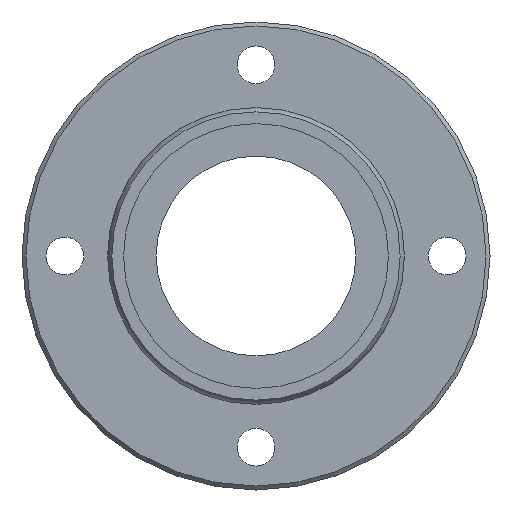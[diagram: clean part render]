
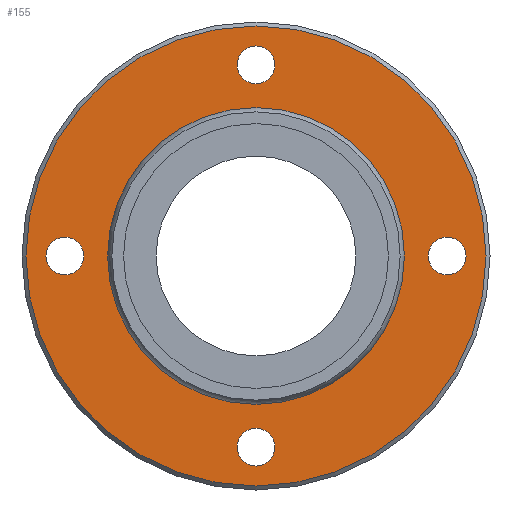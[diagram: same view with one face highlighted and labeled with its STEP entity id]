
A CAD part, left-side view. The second image highlights one B-rep face of the part: STEP entity #155.
In plain terms, the highlighted planar face has unit normal (-1, 0, 0).
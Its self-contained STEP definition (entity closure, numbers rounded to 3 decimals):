
#60=CARTESIAN_POINT('',(15.,0.,40.3));
#61=VERTEX_POINT('',#60);
#62=CARTESIAN_POINT('',(15.,0.0,0.0));
#63=DIRECTION('',(1.0,0.0,0.0));
#64=DIRECTION('',(0.0,0.0,-1.0));
#65=AXIS2_PLACEMENT_3D('',#62,#63,#64);
#66=CIRCLE('',#65,40.3);
#67=EDGE_CURVE('',#61,#61,#66,.T.);
#92=CARTESIAN_POINT('',(15.,0.0,33.357));
#93=DIRECTION('',(-1.0,0.0,0.0));
#94=DIRECTION('',(0.0,0.0,1.0));
#95=AXIS2_PLACEMENT_3D('',#92,#93,#94);
#96=PLANE('',#95);
#97=ORIENTED_EDGE('',*,*,#67,.F.);
#98=EDGE_LOOP('',(#97));
#99=FACE_OUTER_BOUND('',#98,.T.);
#100=CARTESIAN_POINT('',(15.,0.0,25.714));
#101=VERTEX_POINT('',#100);
#102=CARTESIAN_POINT('',(15.0,0.0,0.0));
#103=DIRECTION('',(-1.0,0.0,0.0));
#104=DIRECTION('',(0.0,0.0,1.0));
#105=AXIS2_PLACEMENT_3D('',#102,#103,#104);
#106=CIRCLE('',#105,25.714);
#107=EDGE_CURVE('',#101,#101,#106,.T.);
#108=ORIENTED_EDGE('',*,*,#107,.F.);
#109=EDGE_LOOP('',(#108));
#110=FACE_BOUND('',#109,.T.);
#111=CARTESIAN_POINT('',(15.0,30.2,0.));
#112=VERTEX_POINT('',#111);
#113=CARTESIAN_POINT('',(15.0,33.5,0.));
#114=DIRECTION('',(1.0,0.0,0.0));
#115=DIRECTION('',(0.0,1.0,0.0));
#116=AXIS2_PLACEMENT_3D('',#113,#114,#115);
#117=CIRCLE('',#116,3.3);
#118=EDGE_CURVE('',#112,#112,#117,.T.);
#119=ORIENTED_EDGE('',*,*,#118,.T.);
#120=EDGE_LOOP('',(#119));
#121=FACE_BOUND('',#120,.T.);
#122=CARTESIAN_POINT('',(15.0,-36.8,0.));
#123=VERTEX_POINT('',#122);
#124=CARTESIAN_POINT('',(15.0,-33.5,0.0));
#125=DIRECTION('',(1.0,0.0,0.0));
#126=DIRECTION('',(0.0,1.0,0.0));
#127=AXIS2_PLACEMENT_3D('',#124,#125,#126);
#128=CIRCLE('',#127,3.3);
#129=EDGE_CURVE('',#123,#123,#128,.T.);
#130=ORIENTED_EDGE('',*,*,#129,.T.);
#131=EDGE_LOOP('',(#130));
#132=FACE_BOUND('',#131,.T.);
#133=CARTESIAN_POINT('',(15.0,-3.3,33.5));
#134=VERTEX_POINT('',#133);
#135=CARTESIAN_POINT('',(15.0,0.,33.5));
#136=DIRECTION('',(1.0,0.0,0.0));
#137=DIRECTION('',(0.0,1.0,0.0));
#138=AXIS2_PLACEMENT_3D('',#135,#136,#137);
#139=CIRCLE('',#138,3.3);
#140=EDGE_CURVE('',#134,#134,#139,.T.);
#141=ORIENTED_EDGE('',*,*,#140,.T.);
#142=EDGE_LOOP('',(#141));
#143=FACE_BOUND('',#142,.T.);
#144=CARTESIAN_POINT('',(15.0,-3.3,-33.5));
#145=VERTEX_POINT('',#144);
#146=CARTESIAN_POINT('',(15.0,0.,-33.5));
#147=DIRECTION('',(1.0,0.0,0.0));
#148=DIRECTION('',(0.0,1.0,0.0));
#149=AXIS2_PLACEMENT_3D('',#146,#147,#148);
#150=CIRCLE('',#149,3.3);
#151=EDGE_CURVE('',#145,#145,#150,.T.);
#152=ORIENTED_EDGE('',*,*,#151,.T.);
#153=EDGE_LOOP('',(#152));
#154=FACE_BOUND('',#153,.T.);
#155=ADVANCED_FACE('',(#99,#110,#121,#132,#143,#154),#96,.T.);
